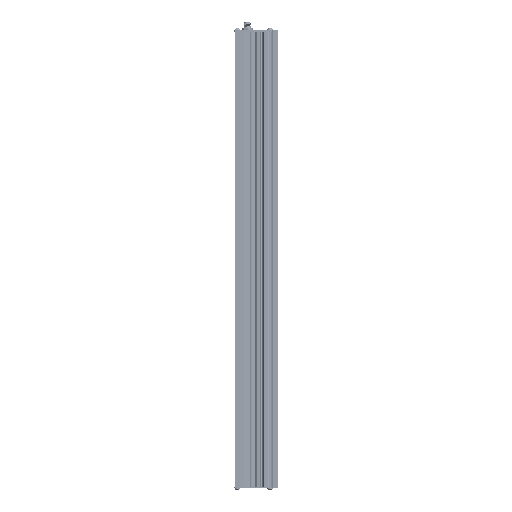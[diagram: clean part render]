
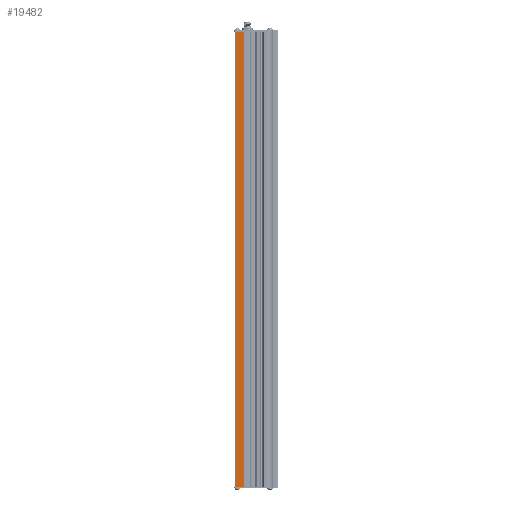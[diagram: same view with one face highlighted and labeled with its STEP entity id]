
A CAD part, left-side view. The second image highlights one B-rep face of the part: STEP entity #19482.
In plain terms, the highlighted planar face has unit normal (-1, 0, 0).
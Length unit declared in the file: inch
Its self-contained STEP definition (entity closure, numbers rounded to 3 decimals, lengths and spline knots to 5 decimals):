
#1221 = LINE ( 'NONE', #30876, #21545 ) ;
#1295 = FACE_OUTER_BOUND ( 'NONE', #35977, .T. ) ;
#1361 = VECTOR ( 'NONE', #22418, 39.37008 ) ;
#2112 = DIRECTION ( 'NONE',  ( 0., 0., -1. ) ) ;
#2115 = CARTESIAN_POINT ( 'NONE',  ( -1.76811, 0.75971, 14.875 ) ) ;
#2319 = LINE ( 'NONE', #2115, #25122 ) ;
#2676 = VERTEX_POINT ( 'NONE', #7859 ) ;
#2692 = CARTESIAN_POINT ( 'NONE',  ( -1.76811, 1.342, 14.875 ) ) ;
#5293 = AXIS2_PLACEMENT_3D ( 'NONE', #13310, #25070, #24490 ) ;
#7415 = CARTESIAN_POINT ( 'NONE',  ( -1.76811, 1.342, -14.875 ) ) ;
#7859 = CARTESIAN_POINT ( 'NONE',  ( -1.76811, 0.75971, -14.875 ) ) ;
#9886 = DIRECTION ( 'NONE',  ( 0., -1., 0. ) ) ;
#10047 = EDGE_CURVE ( 'NONE', #31695, #2676, #1221, .T. ) ;
#10451 = LINE ( 'NONE', #37335, #1361 ) ;
#13310 = CARTESIAN_POINT ( 'NONE',  ( -1.76811, 1.342, 14.875 ) ) ;
#14144 = DIRECTION ( 'NONE',  ( 0., 0., -1. ) ) ;
#14695 = VERTEX_POINT ( 'NONE', #35278 ) ;
#15075 = ORIENTED_EDGE ( 'NONE', *, *, #37747, .T. ) ;
#15683 = PLANE ( 'NONE',  #5293 ) ;
#16362 = ORIENTED_EDGE ( 'NONE', *, *, #28549, .F. ) ;
#16870 = ORIENTED_EDGE ( 'NONE', *, *, #31410, .F. ) ;
#19482 = ADVANCED_FACE ( 'NONE', ( #1295 ), #15683, .F. ) ;
#19533 = CARTESIAN_POINT ( 'NONE',  ( -1.76811, 0.75971, 14.875 ) ) ;
#21545 = VECTOR ( 'NONE', #9886, 39.37008 ) ;
#22418 = DIRECTION ( 'NONE',  ( 0., -1., 0. ) ) ;
#24490 = DIRECTION ( 'NONE',  ( 0., 1., 0. ) ) ;
#25070 = DIRECTION ( 'NONE',  ( 1., 0., 0. ) ) ;
#25122 = VECTOR ( 'NONE', #14144, 39.37008 ) ;
#28549 = EDGE_CURVE ( 'NONE', #33702, #2676, #2319, .T. ) ;
#30500 = VECTOR ( 'NONE', #2112, 39.37008 ) ;
#30876 = CARTESIAN_POINT ( 'NONE',  ( -1.76811, 1.342, -14.875 ) ) ;
#31410 = EDGE_CURVE ( 'NONE', #14695, #33702, #10451, .T. ) ;
#31695 = VERTEX_POINT ( 'NONE', #7415 ) ;
#33702 = VERTEX_POINT ( 'NONE', #19533 ) ;
#35278 = CARTESIAN_POINT ( 'NONE',  ( -1.76811, 1.342, 14.875 ) ) ;
#35977 = EDGE_LOOP ( 'NONE', ( #37245, #16362, #16870, #15075 ) ) ;
#37245 = ORIENTED_EDGE ( 'NONE', *, *, #10047, .T. ) ;
#37335 = CARTESIAN_POINT ( 'NONE',  ( -1.76811, 1.342, 14.875 ) ) ;
#37747 = EDGE_CURVE ( 'NONE', #14695, #31695, #38448, .T. ) ;
#38448 = LINE ( 'NONE', #2692, #30500 ) ;
